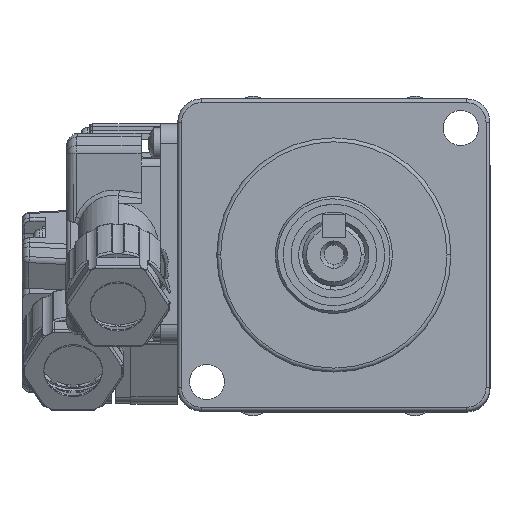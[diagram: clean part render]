
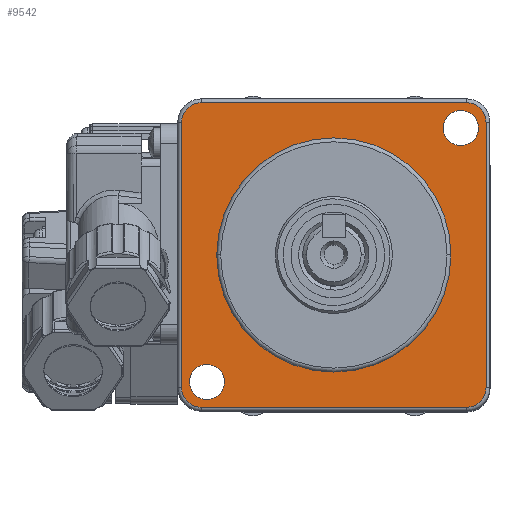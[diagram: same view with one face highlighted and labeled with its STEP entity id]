
A CAD part, top view. The second image highlights one B-rep face of the part: STEP entity #9542.
In plain terms, the highlighted planar face has unit normal (0, 0, 1).
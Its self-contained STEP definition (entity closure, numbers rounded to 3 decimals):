
#176 = CIRCLE ( 'NONE', #30776, 2.5 ) ;
#442 = VERTEX_POINT ( 'NONE', #6333 ) ;
#744 = DIRECTION ( 'NONE',  ( -1., 0., 0. ) ) ;
#1365 = CIRCLE ( 'NONE', #39609, 2.25 ) ;
#1514 = CARTESIAN_POINT ( 'NONE',  ( -19.5, 17., 50. ) ) ;
#1724 = DIRECTION ( 'NONE',  ( -1., 0., 0. ) ) ;
#1742 = CARTESIAN_POINT ( 'NONE',  ( 14.013, 16.263, 50. ) ) ;
#1886 = CARTESIAN_POINT ( 'NONE',  ( -17., -17., 50. ) ) ;
#3175 = CARTESIAN_POINT ( 'NONE',  ( 0., 19.5, 50. ) ) ;
#3302 = DIRECTION ( 'NONE',  ( 0., 0., 1. ) ) ;
#3434 = VECTOR ( 'NONE', #4429, 1000. ) ;
#3772 = ORIENTED_EDGE ( 'NONE', *, *, #11272, .T. ) ;
#3834 = FACE_OUTER_BOUND ( 'NONE', #16277, .T. ) ;
#4177 = DIRECTION ( 'NONE',  ( -1., 0., 0. ) ) ;
#4429 = DIRECTION ( 'NONE',  ( 1., 0., 0. ) ) ;
#4522 = DIRECTION ( 'NONE',  ( 0., 0., 1. ) ) ;
#4813 = CIRCLE ( 'NONE', #44941, 2.5 ) ;
#5049 = VERTEX_POINT ( 'NONE', #47484 ) ;
#5287 = CARTESIAN_POINT ( 'NONE',  ( -17., 17., 50. ) ) ;
#5413 = AXIS2_PLACEMENT_3D ( 'NONE', #30167, #29682, #7627 ) ;
#6111 = AXIS2_PLACEMENT_3D ( 'NONE', #28026, #13736, #21179 ) ;
#6184 = VERTEX_POINT ( 'NONE', #45282 ) ;
#6333 = CARTESIAN_POINT ( 'NONE',  ( -17., -19.5, 50. ) ) ;
#7025 = DIRECTION ( 'NONE',  ( -1., 0., 0. ) ) ;
#7627 = DIRECTION ( 'NONE',  ( -1., 0., 0. ) ) ;
#8498 = ORIENTED_EDGE ( 'NONE', *, *, #36447, .F. ) ;
#9180 = EDGE_CURVE ( 'NONE', #39623, #5049, #45678, .T. ) ;
#9220 = DIRECTION ( 'NONE',  ( -1., 0., 0. ) ) ;
#9542 = ADVANCED_FACE ( 'NONE', ( #3834, #18902, #14852, #42180 ), #42467, .F. ) ;
#10075 = VERTEX_POINT ( 'NONE', #43052 ) ;
#10175 = CIRCLE ( 'NONE', #43311, 15. ) ;
#10608 = VERTEX_POINT ( 'NONE', #21897 ) ;
#11272 = EDGE_CURVE ( 'NONE', #5049, #442, #46282, .T. ) ;
#11352 = VERTEX_POINT ( 'NONE', #1742 ) ;
#11875 = VERTEX_POINT ( 'NONE', #38168 ) ;
#12036 = DIRECTION ( 'NONE',  ( 0., -1., 0. ) ) ;
#12077 = DIRECTION ( 'NONE',  ( -1., 0., 0. ) ) ;
#12557 = EDGE_CURVE ( 'NONE', #10608, #30795, #17110, .T. ) ;
#12793 = EDGE_CURVE ( 'NONE', #30795, #39623, #22282, .T. ) ;
#12906 = DIRECTION ( 'NONE',  ( 0., 0., 1. ) ) ;
#13317 = LINE ( 'NONE', #33454, #3434 ) ;
#13667 = ORIENTED_EDGE ( 'NONE', *, *, #16402, .F. ) ;
#13736 = DIRECTION ( 'NONE',  ( 0., 0., 1. ) ) ;
#14262 = ORIENTED_EDGE ( 'NONE', *, *, #12793, .T. ) ;
#14536 = CARTESIAN_POINT ( 'NONE',  ( 19.5, -17., 50. ) ) ;
#14780 = LINE ( 'NONE', #27581, #43833 ) ;
#14852 = FACE_BOUND ( 'NONE', #46214, .T. ) ;
#15191 = ORIENTED_EDGE ( 'NONE', *, *, #22705, .T. ) ;
#15543 = EDGE_CURVE ( 'NONE', #11875, #29175, #10175, .T. ) ;
#16277 = EDGE_LOOP ( 'NONE', ( #44599, #14262, #37578, #3772, #22975, #37486, #29080, #15191 ) ) ;
#16389 = DIRECTION ( 'NONE',  ( 0., 1., 0. ) ) ;
#16402 = EDGE_CURVE ( 'NONE', #44167, #11352, #1365, .T. ) ;
#16807 = CARTESIAN_POINT ( 'NONE',  ( -15., 0., 50. ) ) ;
#17025 = EDGE_CURVE ( 'NONE', #10075, #24111, #4813, .T. ) ;
#17110 = LINE ( 'NONE', #3175, #39185 ) ;
#17243 = ORIENTED_EDGE ( 'NONE', *, *, #41825, .F. ) ;
#17680 = EDGE_CURVE ( 'NONE', #43332, #36040, #21548, .T. ) ;
#18902 = FACE_BOUND ( 'NONE', #30950, .T. ) ;
#19438 = DIRECTION ( 'NONE',  ( -1., 0., 0. ) ) ;
#19744 = DIRECTION ( 'NONE',  ( -1., 0., 0. ) ) ;
#19890 = CARTESIAN_POINT ( 'NONE',  ( 18.513, 16.263, 50. ) ) ;
#20362 = CARTESIAN_POINT ( 'NONE',  ( 0., 0., 50. ) ) ;
#20766 = CIRCLE ( 'NONE', #6111, 2.25 ) ;
#21179 = DIRECTION ( 'NONE',  ( -1., 0., 0. ) ) ;
#21548 = CIRCLE ( 'NONE', #29090, 2.25 ) ;
#21897 = CARTESIAN_POINT ( 'NONE',  ( 17., 19.5, 50. ) ) ;
#21970 = CARTESIAN_POINT ( 'NONE',  ( -14.013, -16.263, 50. ) ) ;
#22282 = CIRCLE ( 'NONE', #38004, 2.5 ) ;
#22362 = CIRCLE ( 'NONE', #46232, 15. ) ;
#22705 = EDGE_CURVE ( 'NONE', #6184, #10608, #176, .T. ) ;
#22827 = CARTESIAN_POINT ( 'NONE',  ( 17., 17., 50. ) ) ;
#22975 = ORIENTED_EDGE ( 'NONE', *, *, #37516, .T. ) ;
#23428 = CARTESIAN_POINT ( 'NONE',  ( 0., 0., 50. ) ) ;
#23604 = DIRECTION ( 'NONE',  ( 0., 0., 1. ) ) ;
#24111 = VERTEX_POINT ( 'NONE', #14536 ) ;
#25092 = AXIS2_PLACEMENT_3D ( 'NONE', #20362, #46367, #39045 ) ;
#26743 = ORIENTED_EDGE ( 'NONE', *, *, #29971, .F. ) ;
#27581 = CARTESIAN_POINT ( 'NONE',  ( 19.5, 0., 50. ) ) ;
#28026 = CARTESIAN_POINT ( 'NONE',  ( 16.263, 16.263, 50. ) ) ;
#29080 = ORIENTED_EDGE ( 'NONE', *, *, #30546, .T. ) ;
#29090 = AXIS2_PLACEMENT_3D ( 'NONE', #38054, #45355, #12077 ) ;
#29175 = VERTEX_POINT ( 'NONE', #16807 ) ;
#29585 = ORIENTED_EDGE ( 'NONE', *, *, #15543, .F. ) ;
#29682 = DIRECTION ( 'NONE',  ( 0., 0., 1. ) ) ;
#29971 = EDGE_CURVE ( 'NONE', #29175, #11875, #22362, .T. ) ;
#30167 = CARTESIAN_POINT ( 'NONE',  ( -16.263, -16.263, 50. ) ) ;
#30546 = EDGE_CURVE ( 'NONE', #24111, #6184, #14780, .T. ) ;
#30776 = AXIS2_PLACEMENT_3D ( 'NONE', #22827, #4522, #19438 ) ;
#30795 = VERTEX_POINT ( 'NONE', #37921 ) ;
#30950 = EDGE_LOOP ( 'NONE', ( #17243, #13667 ) ) ;
#33454 = CARTESIAN_POINT ( 'NONE',  ( 0., -19.5, 50. ) ) ;
#34009 = DIRECTION ( 'NONE',  ( 0., 0., 1. ) ) ;
#34645 = DIRECTION ( 'NONE',  ( 0., 0., 1. ) ) ;
#35071 = CARTESIAN_POINT ( 'NONE',  ( -18.513, -16.263, 50. ) ) ;
#36040 = VERTEX_POINT ( 'NONE', #35071 ) ;
#36447 = EDGE_CURVE ( 'NONE', #36040, #43332, #45354, .T. ) ;
#37486 = ORIENTED_EDGE ( 'NONE', *, *, #17025, .T. ) ;
#37516 = EDGE_CURVE ( 'NONE', #442, #10075, #13317, .T. ) ;
#37578 = ORIENTED_EDGE ( 'NONE', *, *, #9180, .T. ) ;
#37921 = CARTESIAN_POINT ( 'NONE',  ( -17., 19.5, 50. ) ) ;
#38004 = AXIS2_PLACEMENT_3D ( 'NONE', #5287, #39195, #1724 ) ;
#38054 = CARTESIAN_POINT ( 'NONE',  ( -16.263, -16.263, 50. ) ) ;
#38123 = EDGE_LOOP ( 'NONE', ( #26743, #29585 ) ) ;
#38168 = CARTESIAN_POINT ( 'NONE',  ( 15., 0., 50. ) ) ;
#39045 = DIRECTION ( 'NONE',  ( -1., 0., 0. ) ) ;
#39185 = VECTOR ( 'NONE', #48011, 1000. ) ;
#39195 = DIRECTION ( 'NONE',  ( 0., 0., 1. ) ) ;
#39609 = AXIS2_PLACEMENT_3D ( 'NONE', #41851, #34645, #744 ) ;
#39623 = VERTEX_POINT ( 'NONE', #1514 ) ;
#40306 = CARTESIAN_POINT ( 'NONE',  ( 0., 0., 50. ) ) ;
#41825 = EDGE_CURVE ( 'NONE', #11352, #44167, #20766, .T. ) ;
#41851 = CARTESIAN_POINT ( 'NONE',  ( 16.263, 16.263, 50. ) ) ;
#41995 = AXIS2_PLACEMENT_3D ( 'NONE', #1886, #12906, #9220 ) ;
#42180 = FACE_BOUND ( 'NONE', #38123, .T. ) ;
#42230 = CARTESIAN_POINT ( 'NONE',  ( -19.5, 0., 50. ) ) ;
#42467 = PLANE ( 'NONE',  #25092 ) ;
#43052 = CARTESIAN_POINT ( 'NONE',  ( 17., -19.5, 50. ) ) ;
#43311 = AXIS2_PLACEMENT_3D ( 'NONE', #23428, #23604, #19744 ) ;
#43332 = VERTEX_POINT ( 'NONE', #21970 ) ;
#43833 = VECTOR ( 'NONE', #16389, 1000. ) ;
#43851 = VECTOR ( 'NONE', #12036, 1000. ) ;
#44167 = VERTEX_POINT ( 'NONE', #19890 ) ;
#44599 = ORIENTED_EDGE ( 'NONE', *, *, #12557, .T. ) ;
#44941 = AXIS2_PLACEMENT_3D ( 'NONE', #47559, #34009, #4177 ) ;
#45282 = CARTESIAN_POINT ( 'NONE',  ( 19.5, 17., 50. ) ) ;
#45354 = CIRCLE ( 'NONE', #5413, 2.25 ) ;
#45355 = DIRECTION ( 'NONE',  ( 0., 0., 1. ) ) ;
#45678 = LINE ( 'NONE', #42230, #43851 ) ;
#46214 = EDGE_LOOP ( 'NONE', ( #8498, #47288 ) ) ;
#46232 = AXIS2_PLACEMENT_3D ( 'NONE', #40306, #3302, #7025 ) ;
#46282 = CIRCLE ( 'NONE', #41995, 2.5 ) ;
#46367 = DIRECTION ( 'NONE',  ( 0., 0., -1. ) ) ;
#47288 = ORIENTED_EDGE ( 'NONE', *, *, #17680, .F. ) ;
#47484 = CARTESIAN_POINT ( 'NONE',  ( -19.5, -17., 50. ) ) ;
#47559 = CARTESIAN_POINT ( 'NONE',  ( 17., -17., 50. ) ) ;
#48011 = DIRECTION ( 'NONE',  ( -1., 0., 0. ) ) ;
